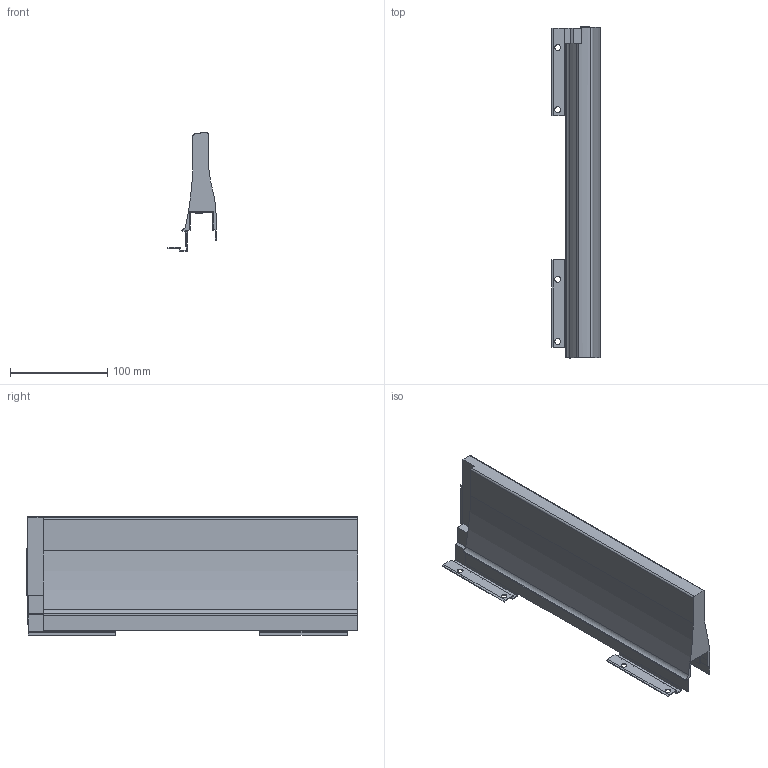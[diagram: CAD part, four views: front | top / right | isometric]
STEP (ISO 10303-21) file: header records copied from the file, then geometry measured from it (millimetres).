
FILE_DESCRIPTION (( 'STEP AP214' ), '1' );
FILE_NAME ('XP Standard Dekorseite H127 NL350 RE .step', '2010-09-21T09:46:09', ( 'grass' ), ( '' ), 'SwSTEP 2.0', 'SolidWorks 2010', '' );
FILE_SCHEMA (( 'AUTOMOTIVE_DESIGN' ));
Length unit declared in the file: millimetre
Products named in the file (1): XP Standard Dekorseite H127 NL350 RE 
Bounding box: 50.01 x 341.5 x 122 mm (x, y, z)
Volume: 585394.7 mm3; surface area: 134597 mm2
Topology: 1 solids, 1 shells, 107 faces, 312 edges, 204 vertices
Faces by surface type: plane 81, cylinder 26
Entity records: 3562 total; most frequent: ORIENTED_EDGE 624, CARTESIAN_POINT 624, DIRECTION 582, EDGE_CURVE 312, LINE 258, VECTOR 258, VERTEX_POINT 204, AXIS2_PLACEMENT_3D 162
